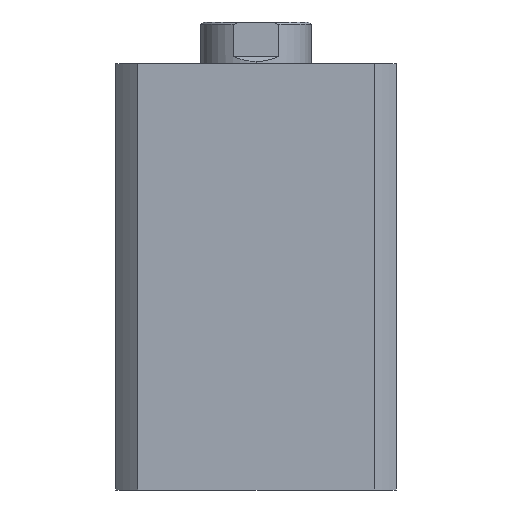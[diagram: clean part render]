
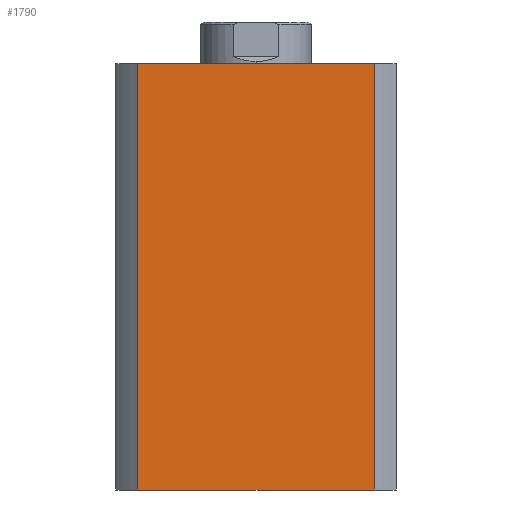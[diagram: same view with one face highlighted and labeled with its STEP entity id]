
A CAD part, left-side view. The second image highlights one B-rep face of the part: STEP entity #1790.
In plain terms, the highlighted planar face has unit normal (-1, 0, 0).
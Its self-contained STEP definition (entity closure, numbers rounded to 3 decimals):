
#354 = EDGE_LOOP ( 'NONE', ( #1430, #1424, #1425, #1422 ) ) ;
#455 = AXIS2_PLACEMENT_3D ( 'NONE', #2140, #2105, #2104 ) ;
#594 = EDGE_CURVE ( 'NONE', #4984, #4942, #3442, .T. ) ;
#596 = EDGE_CURVE ( 'NONE', #5009, #4885, #3448, .T. ) ;
#597 = EDGE_CURVE ( 'NONE', #4984, #5009, #3450, .T. ) ;
#1106 = EDGE_CURVE ( 'NONE', #4942, #4885, #4109, .T. ) ;
#1422 = ORIENTED_EDGE ( 'NONE', *, *, #594, .T. ) ;
#1424 = ORIENTED_EDGE ( 'NONE', *, *, #596, .F. ) ;
#1425 = ORIENTED_EDGE ( 'NONE', *, *, #597, .F. ) ;
#1430 = ORIENTED_EDGE ( 'NONE', *, *, #1106, .T. ) ;
#1674 = DIRECTION ( 'NONE',  ( 0., -1., 0. ) ) ;
#1679 = CARTESIAN_POINT ( 'NONE',  ( -57., -47.971, 173. ) ) ;
#1680 = CARTESIAN_POINT ( 'NONE',  ( -57., 0., 173. ) ) ;
#1681 = DIRECTION ( 'NONE',  ( 0., 0., -1. ) ) ;
#1682 = DIRECTION ( 'NONE',  ( 0., 0., -1. ) ) ;
#1691 = CARTESIAN_POINT ( 'NONE',  ( -57., 47.971, 173. ) ) ;
#1790 = ADVANCED_FACE ( 'NONE', ( #4177 ), #2114, .F. ) ;
#2104 = DIRECTION ( 'NONE',  ( 0., 0., -1. ) ) ;
#2105 = DIRECTION ( 'NONE',  ( 1., 0., 0. ) ) ;
#2114 = PLANE ( 'NONE',  #455 ) ;
#2140 = CARTESIAN_POINT ( 'NONE',  ( -57., 0., 173. ) ) ;
#3442 = LINE ( 'NONE', #1691, #3449 ) ;
#3448 = LINE ( 'NONE', #1679, #3452 ) ;
#3449 = VECTOR ( 'NONE', #1682, 1000. ) ;
#3450 = LINE ( 'NONE', #1680, #3454 ) ;
#3452 = VECTOR ( 'NONE', #1681, 1000. ) ;
#3454 = VECTOR ( 'NONE', #1674, 1000. ) ;
#3699 = CARTESIAN_POINT ( 'NONE',  ( -57., -47.971, 173. ) ) ;
#3724 = CARTESIAN_POINT ( 'NONE',  ( -57., 47.971, 173. ) ) ;
#3775 = CARTESIAN_POINT ( 'NONE',  ( -57., 47.971, 0. ) ) ;
#3836 = CARTESIAN_POINT ( 'NONE',  ( -57., -47.971, 0. ) ) ;
#4109 = LINE ( 'NONE', #4710, #4111 ) ;
#4111 = VECTOR ( 'NONE', #4714, 1000. ) ;
#4177 = FACE_OUTER_BOUND ( 'NONE', #354, .T. ) ;
#4710 = CARTESIAN_POINT ( 'NONE',  ( -57., 0., 0. ) ) ;
#4714 = DIRECTION ( 'NONE',  ( 0., -1., 0. ) ) ;
#4885 = VERTEX_POINT ( 'NONE', #3836 ) ;
#4942 = VERTEX_POINT ( 'NONE', #3775 ) ;
#4984 = VERTEX_POINT ( 'NONE', #3724 ) ;
#5009 = VERTEX_POINT ( 'NONE', #3699 ) ;
